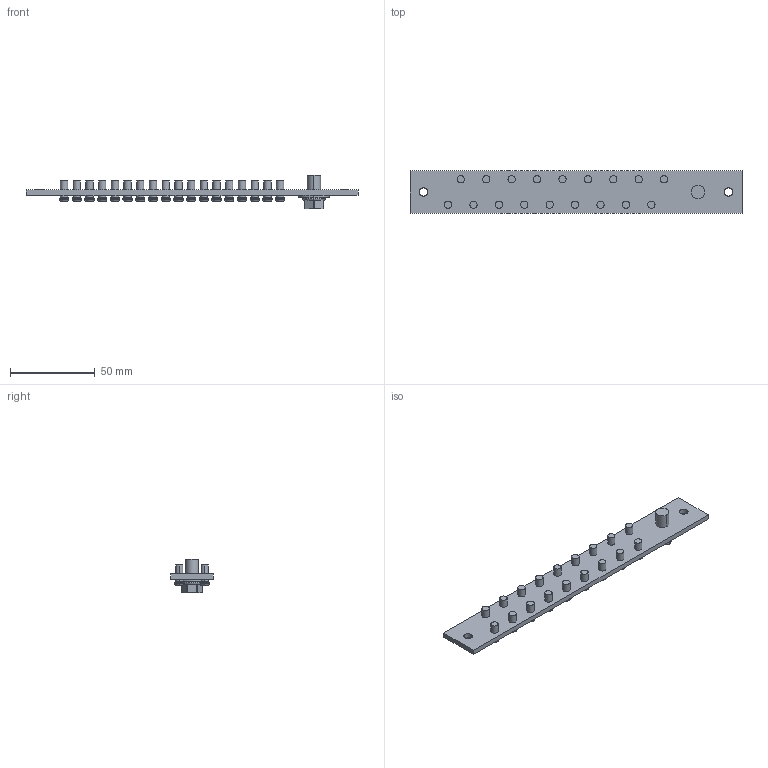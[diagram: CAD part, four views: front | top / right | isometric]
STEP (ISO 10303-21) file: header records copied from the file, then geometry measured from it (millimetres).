
FILE_DESCRIPTION(('Creo Elements/Direct Modeling STEP Export'),'2;1');
FILE_NAME('19.stp','2025-07-24T17:25:34',(''),(''),'PTC Creo Elements/Direct Modeling STEP processor for AP214 (Solid Model)','PTC Creo Elements/Direct Modeling 19.0 09-May-2014 (C) Parametric Technology GmbH','');
FILE_SCHEMA(('AUTOMOTIVE_DESIGN { 1 0 10303 214 1 1 1 1 }'));
Length unit declared in the file: millimetre
Products named in the file (16): QUILT_3-34740.PRT; QUILT_2-34360.PRT; QUILT_1-14960.PRT; USER_LIBRARY-SAN_ZU_HE_LUO-2060.PRT; M5_1_1_1_1_1_1_1_1_2.ASM; SCREW_1_2_PRT.PRT; SCREW_1_1_PRT.PRT; SCREW_1_ASM.ASM; SCREW_0723_STP.ASM; A1.ASM; CU.PRT; QUILT_3-85990.PRT; QUILT_2-85610.PRT; M5_1_1_1_1_1_1_1_1_1_1_1_1_1_1.ASM; 19N_1.ASM; 19.stp
Assembly tree (33 placements, depth 5):
  19.stp
    19N_1.ASM
      M5_1_1_1_1_1_1_1_1_1_1_1_1_1_1.ASM  x2
        QUILT_2-85610.PRT
        QUILT_3-85990.PRT
      CU.PRT
      A1.ASM
        M5_1_1_1_1_1_1_1_1_2.ASM  x9
          USER_LIBRARY-SAN_ZU_HE_LUO-2060.PRT
          QUILT_1-14960.PRT
          QUILT_2-34360.PRT
          QUILT_3-34740.PRT
      SCREW_0723_STP.ASM
        SCREW_1_ASM.ASM
          SCREW_1_1_PRT.PRT
          SCREW_1_2_PRT.PRT
      M5_1_1_1_1_1_1_1_1_2.ASM  x9
        USER_LIBRARY-SAN_ZU_HE_LUO-2060.PRT
        QUILT_1-14960.PRT
        QUILT_2-34360.PRT
        QUILT_3-34740.PRT
Bounding box: 196 x 25 x 20 mm (x, y, z)
Volume: 19051.6 mm3; surface area: 18718 mm2
Topology: 39 solids, 39 shells, 798 faces, 2020 edges, 1322 vertices
Faces by surface type: plane 446, cylinder 276, torus 76
Entity records: 4935 total; most frequent: CARTESIAN_POINT 772, DIRECTION 722, ORIENTED_EDGE 708, EDGE_CURVE 354, AXIS2_PLACEMENT_3D 273, VERTEX_POINT 234, EDGE_LOOP 186, VECTOR 176
